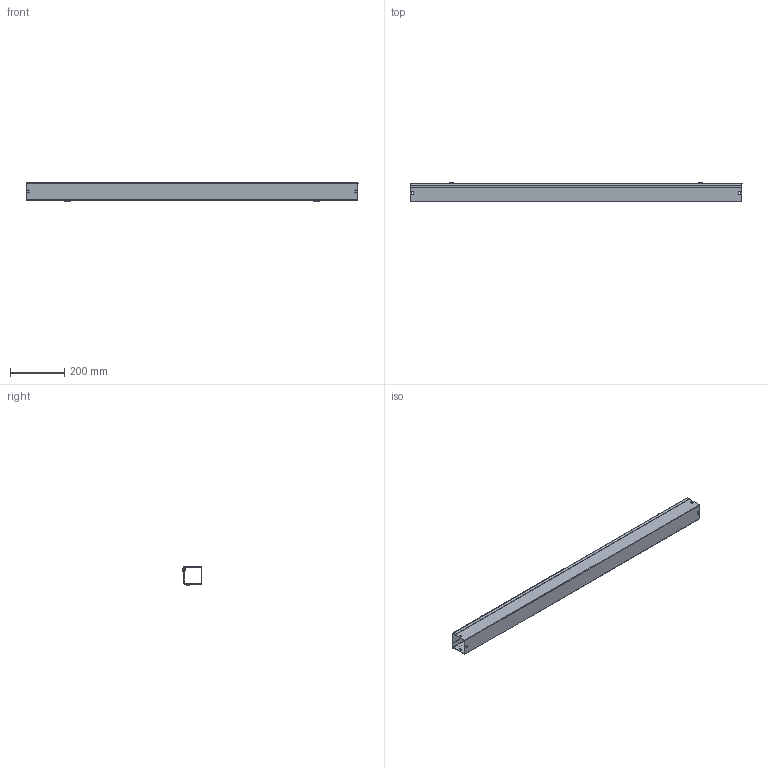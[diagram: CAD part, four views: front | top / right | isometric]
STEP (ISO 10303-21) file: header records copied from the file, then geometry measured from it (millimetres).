
FILE_DESCRIPTION((''),'1');
FILE_NAME('31','2001-04-18T',('jlue'),(''),'PRO/ENGINEER BY PARAMETRIC TECHNOLOGY CORPORATION, 9846','PRO/ENGINEER BY PARAMETRIC TECHNOLOGY CORPORATION, 9846','');
FILE_SCHEMA(('CONFIG_CONTROL_DESIGN'));
Length unit declared in the file: inch
Products named in the file (1): 31
Bounding box: 1219.2 x 70.88 x 72.53 mm (x, y, z)
Surface area: 686057.8 mm2 (no closed solid volume)
Topology: 0 solids, 0 shells, 170 faces, 897 edges, 902 vertices
Faces by surface type: plane 102, cylinder 52, cone 8, bspline 8
Entity records: 4743 total; most frequent: DIRECTION 903, COMPOSITE_CURVE_SEGMENT 892, CARTESIAN_POINT 859, TRIMMED_CURVE 449, VECTOR 319, LINE 319, AXIS2_PLACEMENT_3D 292, CURVE_BOUNDED_SURFACE 170
